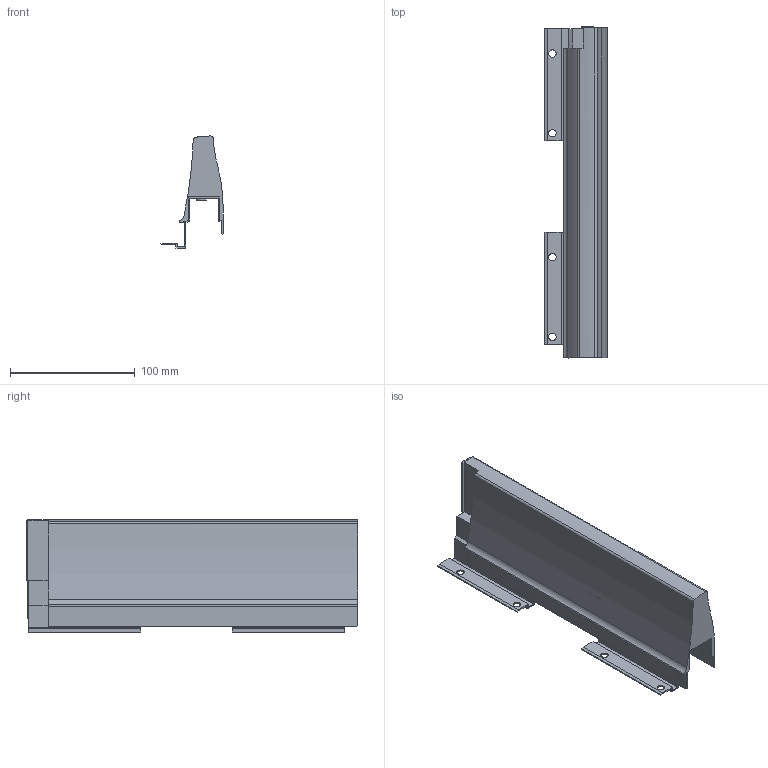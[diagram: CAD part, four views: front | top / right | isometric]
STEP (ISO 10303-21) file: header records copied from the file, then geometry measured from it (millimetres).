
FILE_DESCRIPTION (( 'STEP AP214' ), '1' );
FILE_NAME ('_XP Standard Dekorseite H95 NL275 RE .step', '2010-07-14T06:08:51', ( 'grass' ), ( '' ), 'SwSTEP 2.0', 'SolidWorks 2010', '' );
FILE_SCHEMA (( 'AUTOMOTIVE_DESIGN' ));
Length unit declared in the file: millimetre
Products named in the file (1): _XP Standard Dekorseite H95 NL275 RE 
Bounding box: 50.01 x 266.5 x 90 mm (x, y, z)
Volume: 324203.9 mm3; surface area: 90791.5 mm2
Topology: 1 solids, 1 shells, 105 faces, 306 edges, 200 vertices
Faces by surface type: plane 79, cylinder 26
Entity records: 3497 total; most frequent: CARTESIAN_POINT 612, ORIENTED_EDGE 612, DIRECTION 573, EDGE_CURVE 306, VECTOR 251, LINE 251, VERTEX_POINT 200, AXIS2_PLACEMENT_3D 161
